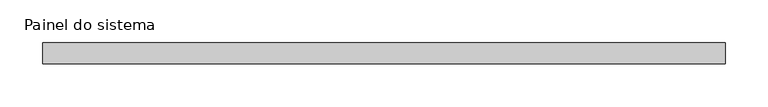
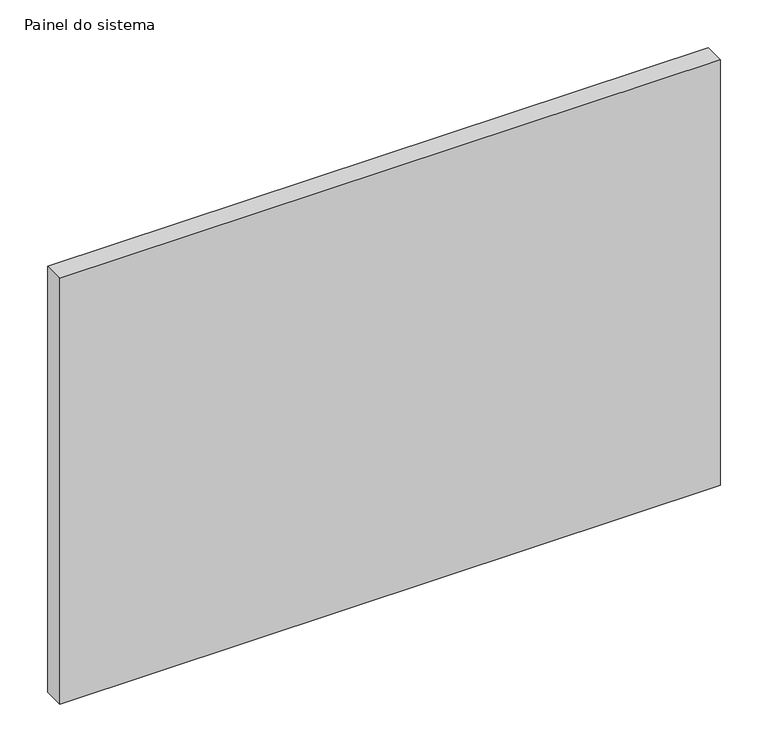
"""IFC4 building model written with IfcOpenShell, lengths in millimetres: plate geometry, Painel do sistema : Envidraçado."""

from ifc_helpers import new_model, si_unit, origin, origin_with_axes, place, context, project, spatial, polyline, outline, extrude, source, transform, mapped, element, save


def painel_do_sistema_fc427781(model_context):
    return source(origin(), model_context, "Body", "SweptSolid", [
        extrude(outline(polyline([(400.0, 24.5), (-400.0, 24.5), (-400.0, 49.5), (400.0, 49.5), (400.0, 24.5)])), origin_with_axes(), (0.0, 0.0, 1.0), 545.0),
    ])


if __name__ == "__main__":
    model = new_model("IFC4")
    model_context = context("Model", 3, world=origin())
    ifc_project = project(units=[si_unit("LENGTHUNIT", "METRE", prefix="MILLI")], contexts=[model_context])
    site = spatial("IfcSite", under=ifc_project)
    building = spatial("IfcBuilding", under=site)
    placement = place(None, origin())
    painel_do_sistema_shape = painel_do_sistema_fc427781(model_context)
    element("IfcPlate", 1, ObjectType="Painel do sistema : Envidraçado", at=placement, inside=building, context=model_context, shape_type="MappedRepresentation", body=[
        mapped(painel_do_sistema_shape, transform((0.0, 0.0, 0.0), x_axis=(1.0, 0.0, 0.0), y_axis=(0.0, 1.0, 0.0), z_axis=(0.0, 0.0, 1.0))),
    ])
    save(model, "model.ifc")
